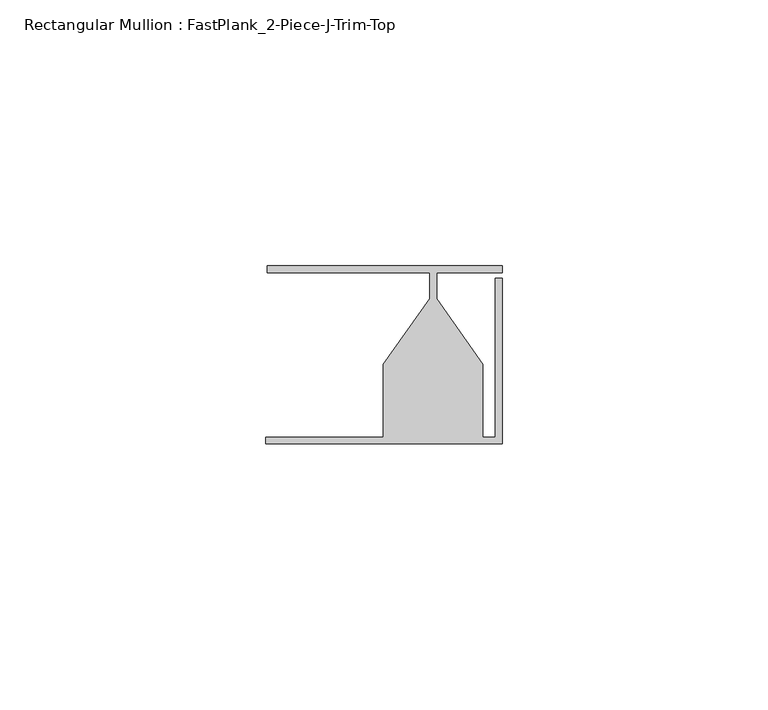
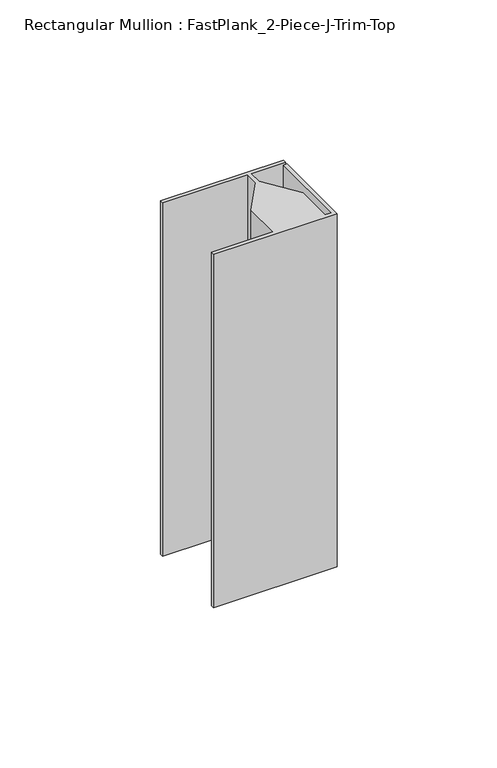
"""IFC4 building model written with IfcOpenShell, lengths in millimetres: member geometry, Rectangular Mullion : FastPlank_2-Piece-J-Trim-Top."""

from ifc_helpers import new_model, si_unit, frame, origin, place, context, project, spatial, polyline, outline, extrude, source, transform, mapped, element, save


def rectangular_mullion_fastplank_2_piece_j_trim_top_1ab4a910(model_context):
    return source(origin(), model_context, "Body", "SweptSolid", [
        extrude(outline(polyline([(0.0, 11.8625052), (0.0, 10.5618154), (-12.3176464, 10.5618154), (-12.3176464, 5.7038113), (-3.6053348, -6.6543757), (-3.6053348, -20.3381228), (-1.2999974, -20.3381228), (-1.2999974, 9.5619969), (0.0, 9.5619969), (0.0, -21.6381202), (-44.4475015, -21.6381202), (-44.4475015, -20.3381228), (-22.3299553, -20.3381228), (-22.3299553, -6.6543757), (-13.6176438, 5.7038113), (-13.6176438, 10.5618154), (-44.2023711, 10.5618154), (-44.2023711, 11.8625052), (0.0, 11.8625052)])), frame((0.0, 0.0, -134.6500192), z_axis=(0.0, 0.0, 1.0), x_axis=(1.0, 0.0, 0.0)), (0.0, 0.0, 1.0), 134.6500192),
    ])


if __name__ == "__main__":
    model = new_model("IFC4")
    model_context = context("Model", 3, world=origin())
    ifc_project = project(units=[si_unit("LENGTHUNIT", "METRE", prefix="MILLI")], contexts=[model_context])
    site = spatial("IfcSite", under=ifc_project)
    building = spatial("IfcBuilding", under=site)
    placement = place(None, origin())
    rectangular_mullion_fastplank_2_piece_j_trim_top_shape = rectangular_mullion_fastplank_2_piece_j_trim_top_1ab4a910(model_context)
    element("IfcMember", 1, ObjectType="Rectangular Mullion : FastPlank_2-Piece-J-Trim-Top", at=placement, inside=building, context=model_context, shape_type="MappedRepresentation", body=[
        mapped(rectangular_mullion_fastplank_2_piece_j_trim_top_shape, transform((0.0, 0.0, 0.0), x_axis=(1.0, 0.0, 0.0), y_axis=(0.0, 1.0, 0.0), z_axis=(0.0, 0.0, 1.0))),
    ])
    save(model, "model.ifc")
